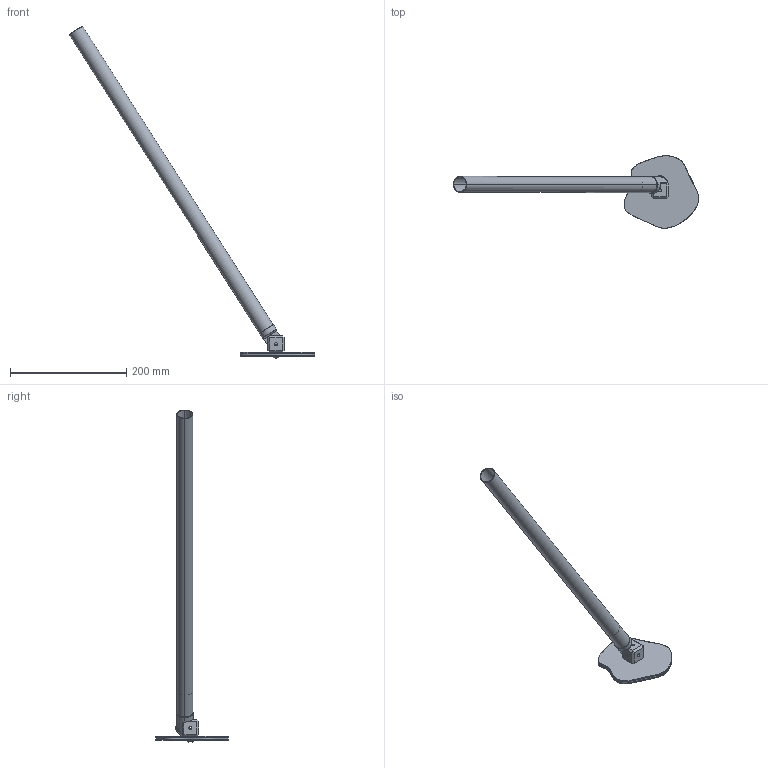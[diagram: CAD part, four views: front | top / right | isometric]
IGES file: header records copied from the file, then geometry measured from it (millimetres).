
Start section: SolidWorks IGES file using analytic representation for surfaces
Global section: file name: \\SERVER3\Design\_NEWDE~1\_DESIG~1\AAI\MODULA~1\SOLIDW~1\DEMONS~1\25DBF2~1.ASS\MODULA~1\497A0~1.TUB\TUBETO~2\Flat End Threaded to Cube to Perpendicular Surface.IGS; native system: SolidWorks 2013; preprocessor: SolidWorks 2013; author: tbraun; date: 131017.152726; units: inch
Bounding box: 422.61 x 124.76 x 571.4 mm (x, y, z)
Surface area: 192684.7 mm2 (no closed solid volume)
Topology: 0 solids, 0 shells, 392 faces, 5956 edges, 5954 vertices
Faces by surface type: revolution 313, bspline 79
